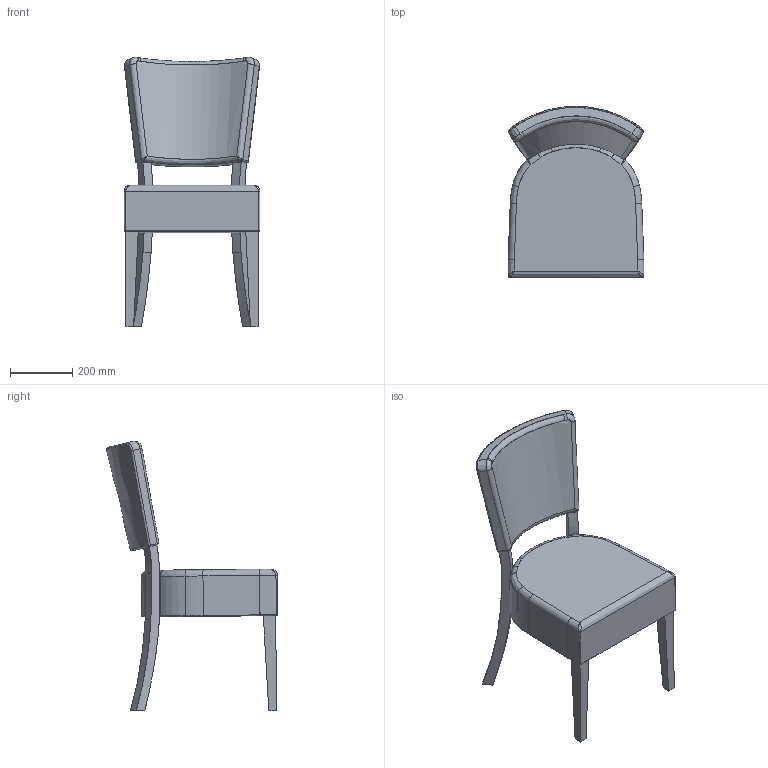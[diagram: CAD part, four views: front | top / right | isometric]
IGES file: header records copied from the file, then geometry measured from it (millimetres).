
Start section: SolidWorks IGES file using analytic representation for surfaces
Global section: file name: C:\Users\Adao\Documents\Trab Adao\Desenho técnico PRODUÇÃO\J M S\LORENA\LORENA (3D)\Cadeira M-420.IGS; native system: SolidWorks 2012; preprocessor: SolidWorks 2012; author: Adao; date: 121219.152821; units: millimetre
Bounding box: 437 x 550.9 x 867.76 mm (x, y, z)
Surface area: 1123670.1 mm2 (no closed solid volume)
Topology: 0 solids, 0 shells, 135 faces, 1072 edges, 1068 vertices
Faces by surface type: bspline 93, revolution 42
